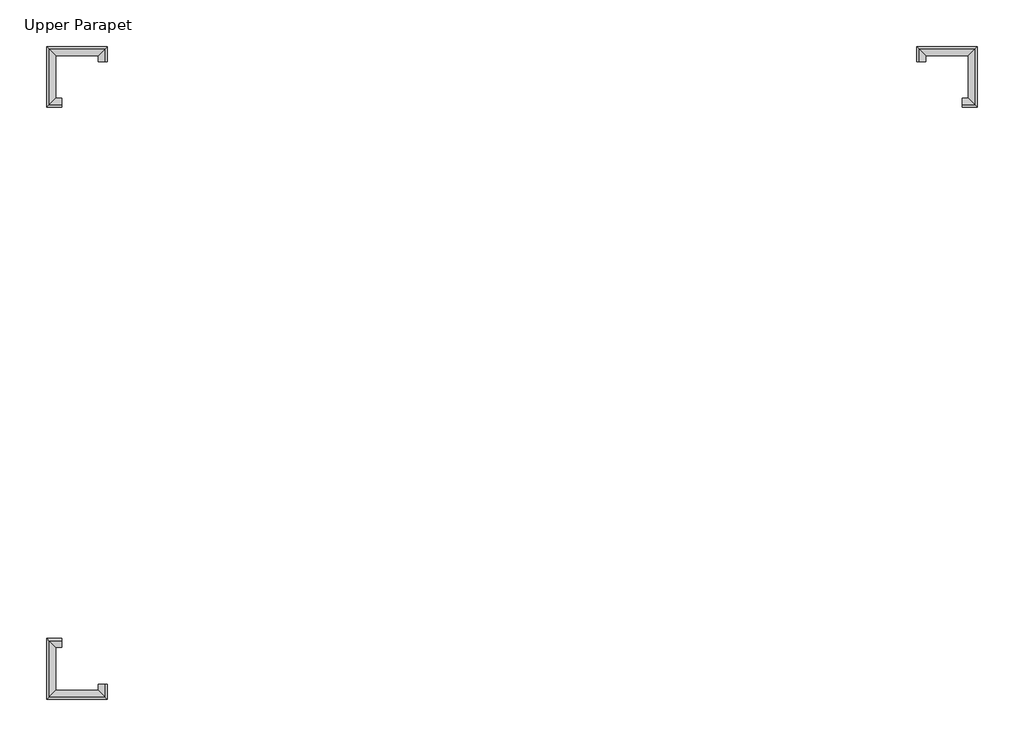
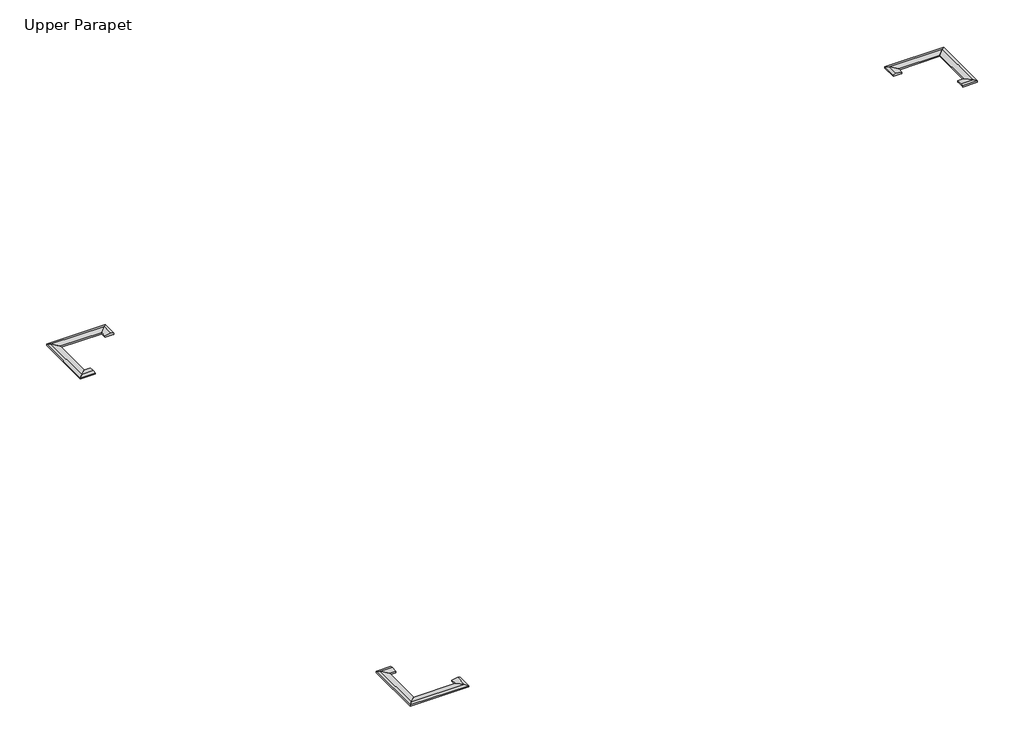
# One storey: 12 proxies.
"""IFC4 building model written with IfcOpenShell, lengths in millimetres."""

from ifc_helpers import new_model, si_unit, origin, place, context, project, spatial, faceted_brep, element, save

model = new_model("IFC4")

# Units and contexts
model_context = context("Model", 3, world=origin())
ifc_project = project(units=[si_unit("LENGTHUNIT", "METRE", prefix="MILLI")], contexts=[model_context])

# Site, building, storey
site = spatial("IfcSite", under=ifc_project)
building = spatial("IfcBuilding", under=site)
storey = spatial("IfcBuildingStorey", under=building, Name="Upper Parapet", Elevation=7924.8)

# Proxies
placement = place(None, origin())
element("IfcBuildingElementProxy", 1, Name="Wall Sweeps", at=placement, inside=storey, context=model_context, shape_type="Brep", body=[
    faceted_brep([(-20412.8727721, 13993.4436943, 7988.3), (-20412.8727721, 13993.4436943, 7924.8), (-20384.2977721, 13993.4436943, 7924.8), (-20031.8727721, 13993.4436943, 7924.8), (-20006.4727721, 13993.4436943, 7924.8), (-20006.4727721, 13993.4436943, 7988.3), (-20133.4727721, 13993.4436943, 8026.4), (-20412.8727721, 14269.6686943, 7988.3), (-20133.4727721, 14549.0686943, 8026.4), (-20006.4727721, 14676.0686943, 7988.3), (-20006.4727721, 14676.0686943, 7924.8), (-20031.8727721, 14650.6686943, 7924.8), (-20384.2977721, 14298.2436943, 7924.8), (-20412.8727721, 14269.6686943, 7924.8)], [[[0, 1, 2, 3, 4, 5, 6]], [[7, 8, 9, 10, 11, 12, 13]], [[0, 6, 8, 7]], [[6, 5, 9, 8]], [[5, 4, 10, 9]], [[4, 3, 2, 1, 13, 12, 11, 10]], [[1, 0, 7, 13]]]),
])
element("IfcBuildingElementProxy", 2, Name="Wall Sweeps", at=placement, inside=storey, context=model_context, shape_type="Brep", body=[
    faceted_brep([(-20412.8727721, 14269.6686943, 7988.3), (-20412.8727721, 14269.6686943, 7924.8), (-20384.2977721, 14298.2436943, 7924.8), (-20031.8727721, 14650.6686943, 7924.8), (-20006.4727721, 14676.0686943, 7924.8), (-20006.4727721, 14676.0686943, 7988.3), (-20133.4727721, 14549.0686943, 8026.4), (-22343.2727721, 14269.6686943, 7988.3), (-22622.6727721, 14549.0686943, 8026.4), (-22749.6727721, 14676.0686943, 7988.3), (-22749.6727721, 14676.0686943, 7924.8), (-22724.2727721, 14650.6686943, 7924.8), (-22371.8477721, 14298.2436943, 7924.8), (-22343.2727721, 14269.6686943, 7924.8)], [[[0, 1, 2, 3, 4, 5, 6]], [[7, 8, 9, 10, 11, 12, 13]], [[0, 6, 8, 7]], [[6, 5, 9, 8]], [[5, 4, 10, 9]], [[4, 3, 2, 1, 13, 12, 11, 10]], [[1, 0, 7, 13]]]),
])
element("IfcBuildingElementProxy", 3, Name="Wall Sweeps", at=placement, inside=storey, context=model_context, shape_type="Brep", body=[
    faceted_brep([(-22343.2727721, 14269.6686943, 7988.3), (-22343.2727721, 14269.6686943, 7924.8), (-22371.8477721, 14298.2436943, 7924.8), (-22724.2727721, 14650.6686943, 7924.8), (-22749.6727721, 14676.0686943, 7924.8), (-22749.6727721, 14676.0686943, 7988.3), (-22622.6727721, 14549.0686943, 8026.4), (-22343.2727721, 12339.2686943, 7988.3), (-22622.6727721, 12059.8686943, 8026.4), (-22749.6727721, 11932.8686943, 7988.3), (-22749.6727721, 11932.8686943, 7924.8), (-22724.2727721, 11958.2686943, 7924.8), (-22371.8477721, 12310.6936943, 7924.8), (-22343.2727721, 12339.2686943, 7924.8)], [[[0, 1, 2, 3, 4, 5, 6]], [[7, 8, 9, 10, 11, 12, 13]], [[0, 6, 8, 7]], [[6, 5, 9, 8]], [[5, 4, 10, 9]], [[4, 3, 2, 1, 13, 12, 11, 10]], [[1, 0, 7, 13]]]),
])
element("IfcBuildingElementProxy", 4, Name="Wall Sweeps", at=placement, inside=storey, context=model_context, shape_type="Brep", body=[
    faceted_brep([(-22343.2727721, 12339.2686943, 7988.3), (-22343.2727721, 12339.2686943, 7924.8), (-22371.8477721, 12310.6936943, 7924.8), (-22724.2727721, 11958.2686943, 7924.8), (-22749.6727721, 11932.8686943, 7924.8), (-22749.6727721, 11932.8686943, 7988.3), (-22622.6727721, 12059.8686943, 8026.4), (-22067.0477721, 12339.2686943, 7988.3), (-22067.0477721, 12059.8686943, 8026.4), (-22067.0477721, 11932.8686943, 7988.3), (-22067.0477721, 11932.8686943, 7924.8), (-22067.0477721, 11958.2686943, 7924.8), (-22067.0477721, 12310.6936943, 7924.8), (-22067.0477721, 12339.2686943, 7924.8)], [[[0, 1, 2, 3, 4, 5, 6]], [[7, 8, 9, 10, 11, 12, 13]], [[0, 6, 8, 7]], [[6, 5, 9, 8]], [[5, 4, 10, 9]], [[4, 3, 2, 1, 13, 12, 11, 10]], [[1, 0, 7, 13]]]),
])
element("IfcBuildingElementProxy", 5, Name="Wall Sweeps", at=placement, inside=storey, context=model_context, shape_type="Brep", body=[
    faceted_brep([(-20412.8727721, -14054.5063057, 7988.3), (-20133.4727721, -14054.5063057, 8026.4), (-20006.4727721, -14054.5063057, 7988.3), (-20006.4727721, -14054.5063057, 7924.8), (-20031.8727721, -14054.5063057, 7924.8), (-20384.2977721, -14054.5063057, 7924.8), (-20412.8727721, -14054.5063057, 7924.8), (-20412.8727721, -14330.7313057, 7988.3), (-20412.8727721, -14330.7313057, 7924.8), (-20384.2977721, -14359.3063057, 7924.8), (-20031.8727721, -14711.7313057, 7924.8), (-20006.4727721, -14737.1313057, 7924.8), (-20006.4727721, -14737.1313057, 7988.3), (-20133.4727721, -14610.1313057, 8026.4)], [[[0, 1, 2, 3, 4, 5, 6]], [[7, 8, 9, 10, 11, 12, 13]], [[1, 0, 7, 13]], [[2, 1, 13, 12]], [[3, 2, 12, 11]], [[6, 5, 4, 3, 11, 10, 9, 8]], [[0, 6, 8, 7]]]),
])
element("IfcBuildingElementProxy", 6, Name="Wall Sweeps", at=placement, inside=storey, context=model_context, shape_type="Brep", body=[
    faceted_brep([(-20412.8727721, -14330.7313057, 7988.3), (-20133.4727721, -14610.1313057, 8026.4), (-20006.4727721, -14737.1313057, 7988.3), (-20006.4727721, -14737.1313057, 7924.8), (-20031.8727721, -14711.7313057, 7924.8), (-20384.2977721, -14359.3063057, 7924.8), (-20412.8727721, -14330.7313057, 7924.8), (-22343.2727721, -14330.7313057, 7988.3), (-22343.2727721, -14330.7313057, 7924.8), (-22371.8477721, -14359.3063057, 7924.8), (-22724.2727721, -14711.7313057, 7924.8), (-22749.6727721, -14737.1313057, 7924.8), (-22749.6727721, -14737.1313057, 7988.3), (-22622.6727721, -14610.1313057, 8026.4)], [[[0, 1, 2, 3, 4, 5, 6]], [[7, 8, 9, 10, 11, 12, 13]], [[1, 0, 7, 13]], [[2, 1, 13, 12]], [[3, 2, 12, 11]], [[6, 5, 4, 3, 11, 10, 9, 8]], [[0, 6, 8, 7]]]),
])
element("IfcBuildingElementProxy", 7, Name="Wall Sweeps", at=placement, inside=storey, context=model_context, shape_type="Brep", body=[
    faceted_brep([(-22343.2727721, -14330.7313057, 7988.3), (-22622.6727721, -14610.1313057, 8026.4), (-22749.6727721, -14737.1313057, 7988.3), (-22749.6727721, -14737.1313057, 7924.8), (-22724.2727721, -14711.7313057, 7924.8), (-22371.8477721, -14359.3063057, 7924.8), (-22343.2727721, -14330.7313057, 7924.8), (-22343.2727721, -12400.3313057, 7988.3), (-22343.2727721, -12400.3313057, 7924.8), (-22371.8477721, -12371.7563057, 7924.8), (-22724.2727721, -12019.3313057, 7924.8), (-22749.6727721, -11993.9313057, 7924.8), (-22749.6727721, -11993.9313057, 7988.3), (-22622.6727721, -12120.9313057, 8026.4)], [[[0, 1, 2, 3, 4, 5, 6]], [[7, 8, 9, 10, 11, 12, 13]], [[1, 0, 7, 13]], [[2, 1, 13, 12]], [[3, 2, 12, 11]], [[6, 5, 4, 3, 11, 10, 9, 8]], [[0, 6, 8, 7]]]),
])
element("IfcBuildingElementProxy", 8, Name="Wall Sweeps", at=placement, inside=storey, context=model_context, shape_type="Brep", body=[
    faceted_brep([(-22343.2727721, -12400.3313057, 7988.3), (-22622.6727721, -12120.9313057, 8026.4), (-22749.6727721, -11993.9313057, 7988.3), (-22749.6727721, -11993.9313057, 7924.8), (-22724.2727721, -12019.3313057, 7924.8), (-22371.8477721, -12371.7563057, 7924.8), (-22343.2727721, -12400.3313057, 7924.8), (-22067.0477721, -12400.3313057, 7988.3), (-22067.0477721, -12400.3313057, 7924.8), (-22067.0477721, -12371.7563057, 7924.8), (-22067.0477721, -12019.3313057, 7924.8), (-22067.0477721, -11993.9313057, 7924.8), (-22067.0477721, -11993.9313057, 7988.3), (-22067.0477721, -12120.9313057, 8026.4)], [[[0, 1, 2, 3, 4, 5, 6]], [[7, 8, 9, 10, 11, 12, 13]], [[1, 0, 7, 13]], [[2, 1, 13, 12]], [[3, 2, 12, 11]], [[6, 5, 4, 3, 11, 10, 9, 8]], [[0, 6, 8, 7]]]),
])
element("IfcBuildingElementProxy", 9, Name="Wall Sweeps", at=placement, inside=storey, context=model_context, shape_type="Brep", body=[
    faceted_brep([(16823.5272279, 13993.4436943, 7988.3), (16544.1272279, 13993.4436943, 8026.4), (16417.1272279, 13993.4436943, 7988.3), (16417.1272279, 13993.4436943, 7924.8), (16442.5272279, 13993.4436943, 7924.8), (16794.9522279, 13993.4436943, 7924.8), (16823.5272279, 13993.4436943, 7924.8), (16823.5272279, 14269.6686943, 7988.3), (16823.5272279, 14269.6686943, 7924.8), (16794.9522279, 14298.2436943, 7924.8), (16442.5272279, 14650.6686943, 7924.8), (16417.1272279, 14676.0686943, 7924.8), (16417.1272279, 14676.0686943, 7988.3), (16544.1272279, 14549.0686943, 8026.4)], [[[0, 1, 2, 3, 4, 5, 6]], [[7, 8, 9, 10, 11, 12, 13]], [[1, 0, 7, 13]], [[2, 1, 13, 12]], [[3, 2, 12, 11]], [[6, 5, 4, 3, 11, 10, 9, 8]], [[0, 6, 8, 7]]]),
])
element("IfcBuildingElementProxy", 10, Name="Wall Sweeps", at=placement, inside=storey, context=model_context, shape_type="Brep", body=[
    faceted_brep([(16823.5272279, 14269.6686943, 7988.3), (16544.1272279, 14549.0686943, 8026.4), (16417.1272279, 14676.0686943, 7988.3), (16417.1272279, 14676.0686943, 7924.8), (16442.5272279, 14650.6686943, 7924.8), (16794.9522279, 14298.2436943, 7924.8), (16823.5272279, 14269.6686943, 7924.8), (18753.9272279, 14269.6686943, 7988.3), (18753.9272279, 14269.6686943, 7924.8), (18782.5022279, 14298.2436943, 7924.8), (19134.9272279, 14650.6686943, 7924.8), (19160.3272279, 14676.0686943, 7924.8), (19160.3272279, 14676.0686943, 7988.3), (19033.3272279, 14549.0686943, 8026.4)], [[[0, 1, 2, 3, 4, 5, 6]], [[7, 8, 9, 10, 11, 12, 13]], [[1, 0, 7, 13]], [[2, 1, 13, 12]], [[3, 2, 12, 11]], [[6, 5, 4, 3, 11, 10, 9, 8]], [[0, 6, 8, 7]]]),
])
element("IfcBuildingElementProxy", 11, Name="Wall Sweeps", at=placement, inside=storey, context=model_context, shape_type="Brep", body=[
    faceted_brep([(18753.9272279, 14269.6686943, 7988.3), (19033.3272279, 14549.0686943, 8026.4), (19160.3272279, 14676.0686943, 7988.3), (19160.3272279, 14676.0686943, 7924.8), (19134.9272279, 14650.6686943, 7924.8), (18782.5022279, 14298.2436943, 7924.8), (18753.9272279, 14269.6686943, 7924.8), (18753.9272279, 12339.2686943, 7988.3), (18753.9272279, 12339.2686943, 7924.8), (18782.5022279, 12310.6936943, 7924.8), (19134.9272279, 11958.2686943, 7924.8), (19160.3272279, 11932.8686943, 7924.8), (19160.3272279, 11932.8686943, 7988.3), (19033.3272279, 12059.8686943, 8026.4)], [[[0, 1, 2, 3, 4, 5, 6]], [[7, 8, 9, 10, 11, 12, 13]], [[1, 0, 7, 13]], [[2, 1, 13, 12]], [[3, 2, 12, 11]], [[6, 5, 4, 3, 11, 10, 9, 8]], [[0, 6, 8, 7]]]),
])
element("IfcBuildingElementProxy", 12, Name="Wall Sweeps", at=placement, inside=storey, context=model_context, shape_type="Brep", body=[
    faceted_brep([(18753.9272279, 12339.2686943, 7988.3), (19033.3272279, 12059.8686943, 8026.4), (19160.3272279, 11932.8686943, 7988.3), (19160.3272279, 11932.8686943, 7924.8), (19134.9272279, 11958.2686943, 7924.8), (18782.5022279, 12310.6936943, 7924.8), (18753.9272279, 12339.2686943, 7924.8), (18477.7022279, 12339.2686943, 7988.3), (18477.7022279, 12339.2686943, 7924.8), (18477.7022279, 12310.6936943, 7924.8), (18477.7022279, 11958.2686943, 7924.8), (18477.7022279, 11932.8686943, 7924.8), (18477.7022279, 11932.8686943, 7988.3), (18477.7022279, 12059.8686943, 8026.4)], [[[0, 1, 2, 3, 4, 5, 6]], [[7, 8, 9, 10, 11, 12, 13]], [[1, 0, 7, 13]], [[2, 1, 13, 12]], [[3, 2, 12, 11]], [[6, 5, 4, 3, 11, 10, 9, 8]], [[0, 6, 8, 7]]]),
])

save(model, "model.ifc")
